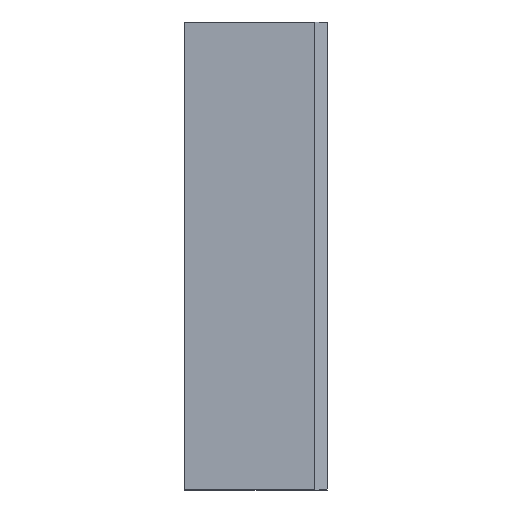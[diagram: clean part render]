
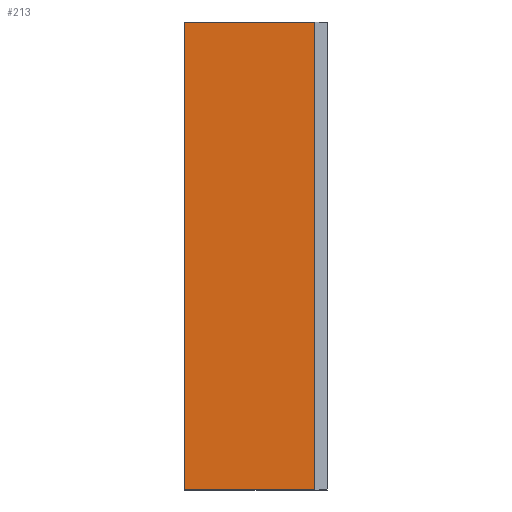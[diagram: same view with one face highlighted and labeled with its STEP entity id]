
A CAD part, top view. The second image highlights one B-rep face of the part: STEP entity #213.
In plain terms, the highlighted planar face has unit normal (0, 0, 1).
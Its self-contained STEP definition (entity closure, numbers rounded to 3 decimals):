
#44 = PLANE('',#45);
#45 = AXIS2_PLACEMENT_3D('',#46,#47,#48);
#46 = CARTESIAN_POINT('',(-33.,-32.,-277.));
#47 = DIRECTION('',(-1.,-0.,-0.));
#48 = DIRECTION('',(0.,0.,-1.));
#72 = PLANE('',#73);
#73 = AXIS2_PLACEMENT_3D('',#74,#75,#76);
#74 = CARTESIAN_POINT('',(-23.432,32.,-277.521));
#75 = DIRECTION('',(-0.,-1.,-0.));
#76 = DIRECTION('',(0.,0.,-1.));
#100 = PLANE('',#101);
#101 = AXIS2_PLACEMENT_3D('',#102,#103,#104);
#102 = CARTESIAN_POINT('',(-13.5,-32.,-278.));
#103 = DIRECTION('',(0.507,0.,0.862));
#104 = DIRECTION('',(-0.862,0.,0.507));
#126 = PLANE('',#127);
#127 = AXIS2_PLACEMENT_3D('',#128,#129,#130);
#128 = CARTESIAN_POINT('',(-23.432,-32.,-277.521));
#129 = DIRECTION('',(-0.,-1.,-0.));
#130 = DIRECTION('',(0.,0.,-1.));
#143 = VERTEX_POINT('',#144);
#144 = CARTESIAN_POINT('',(-15.2,32.,-277.));
#165 = EDGE_CURVE('',#166,#143,#168,.T.);
#166 = VERTEX_POINT('',#167);
#167 = CARTESIAN_POINT('',(-15.2,-32.,-277.));
#168 = SURFACE_CURVE('',#169,(#173,#180),.PCURVE_S1.);
#169 = LINE('',#170,#171);
#170 = CARTESIAN_POINT('',(-15.2,-32.,-277.));
#171 = VECTOR('',#172,1.);
#172 = DIRECTION('',(-0.,1.,-0.));
#173 = PCURVE('',#100,#174);
#174 = DEFINITIONAL_REPRESENTATION('',(#175),#179);
#175 = LINE('',#176,#177);
#176 = CARTESIAN_POINT('',(1.972,0.));
#177 = VECTOR('',#178,1.);
#178 = DIRECTION('',(0.,-1.));
#179 = ( GEOMETRIC_REPRESENTATION_CONTEXT(2) 
PARAMETRIC_REPRESENTATION_CONTEXT() REPRESENTATION_CONTEXT('2D SPACE',''
  ) );
#180 = PCURVE('',#181,#186);
#181 = PLANE('',#182);
#182 = AXIS2_PLACEMENT_3D('',#183,#184,#185);
#183 = CARTESIAN_POINT('',(-15.2,-32.,-277.));
#184 = DIRECTION('',(0.,0.,1.));
#185 = DIRECTION('',(-1.,0.,0.));
#186 = DEFINITIONAL_REPRESENTATION('',(#187),#191);
#187 = LINE('',#188,#189);
#188 = CARTESIAN_POINT('',(0.,0.));
#189 = VECTOR('',#190,1.);
#190 = DIRECTION('',(0.,-1.));
#191 = ( GEOMETRIC_REPRESENTATION_CONTEXT(2) 
PARAMETRIC_REPRESENTATION_CONTEXT() REPRESENTATION_CONTEXT('2D SPACE',''
  ) );
#213 = ADVANCED_FACE('',(#214),#181,.T.);
#214 = FACE_BOUND('',#215,.T.);
#215 = EDGE_LOOP('',(#216,#217,#240,#263));
#216 = ORIENTED_EDGE('',*,*,#165,.T.);
#217 = ORIENTED_EDGE('',*,*,#218,.T.);
#218 = EDGE_CURVE('',#143,#219,#221,.T.);
#219 = VERTEX_POINT('',#220);
#220 = CARTESIAN_POINT('',(-33.,32.,-277.));
#221 = SURFACE_CURVE('',#222,(#226,#233),.PCURVE_S1.);
#222 = LINE('',#223,#224);
#223 = CARTESIAN_POINT('',(-15.2,32.,-277.));
#224 = VECTOR('',#225,1.);
#225 = DIRECTION('',(-1.,0.,0.));
#226 = PCURVE('',#181,#227);
#227 = DEFINITIONAL_REPRESENTATION('',(#228),#232);
#228 = LINE('',#229,#230);
#229 = CARTESIAN_POINT('',(0.,-64.));
#230 = VECTOR('',#231,1.);
#231 = DIRECTION('',(1.,0.));
#232 = ( GEOMETRIC_REPRESENTATION_CONTEXT(2) 
PARAMETRIC_REPRESENTATION_CONTEXT() REPRESENTATION_CONTEXT('2D SPACE',''
  ) );
#233 = PCURVE('',#72,#234);
#234 = DEFINITIONAL_REPRESENTATION('',(#235),#239);
#235 = LINE('',#236,#237);
#236 = CARTESIAN_POINT('',(-0.521,8.232));
#237 = VECTOR('',#238,1.);
#238 = DIRECTION('',(0.,-1.));
#239 = ( GEOMETRIC_REPRESENTATION_CONTEXT(2) 
PARAMETRIC_REPRESENTATION_CONTEXT() REPRESENTATION_CONTEXT('2D SPACE',''
  ) );
#240 = ORIENTED_EDGE('',*,*,#241,.F.);
#241 = EDGE_CURVE('',#242,#219,#244,.T.);
#242 = VERTEX_POINT('',#243);
#243 = CARTESIAN_POINT('',(-33.,-32.,-277.));
#244 = SURFACE_CURVE('',#245,(#249,#256),.PCURVE_S1.);
#245 = LINE('',#246,#247);
#246 = CARTESIAN_POINT('',(-33.,-32.,-277.));
#247 = VECTOR('',#248,1.);
#248 = DIRECTION('',(-0.,1.,-0.));
#249 = PCURVE('',#181,#250);
#250 = DEFINITIONAL_REPRESENTATION('',(#251),#255);
#251 = LINE('',#252,#253);
#252 = CARTESIAN_POINT('',(17.8,0.));
#253 = VECTOR('',#254,1.);
#254 = DIRECTION('',(0.,-1.));
#255 = ( GEOMETRIC_REPRESENTATION_CONTEXT(2) 
PARAMETRIC_REPRESENTATION_CONTEXT() REPRESENTATION_CONTEXT('2D SPACE',''
  ) );
#256 = PCURVE('',#44,#257);
#257 = DEFINITIONAL_REPRESENTATION('',(#258),#262);
#258 = LINE('',#259,#260);
#259 = CARTESIAN_POINT('',(0.,0.));
#260 = VECTOR('',#261,1.);
#261 = DIRECTION('',(0.,-1.));
#262 = ( GEOMETRIC_REPRESENTATION_CONTEXT(2) 
PARAMETRIC_REPRESENTATION_CONTEXT() REPRESENTATION_CONTEXT('2D SPACE',''
  ) );
#263 = ORIENTED_EDGE('',*,*,#264,.F.);
#264 = EDGE_CURVE('',#166,#242,#265,.T.);
#265 = SURFACE_CURVE('',#266,(#270,#277),.PCURVE_S1.);
#266 = LINE('',#267,#268);
#267 = CARTESIAN_POINT('',(-15.2,-32.,-277.));
#268 = VECTOR('',#269,1.);
#269 = DIRECTION('',(-1.,0.,0.));
#270 = PCURVE('',#181,#271);
#271 = DEFINITIONAL_REPRESENTATION('',(#272),#276);
#272 = LINE('',#273,#274);
#273 = CARTESIAN_POINT('',(0.,0.));
#274 = VECTOR('',#275,1.);
#275 = DIRECTION('',(1.,0.));
#276 = ( GEOMETRIC_REPRESENTATION_CONTEXT(2) 
PARAMETRIC_REPRESENTATION_CONTEXT() REPRESENTATION_CONTEXT('2D SPACE',''
  ) );
#277 = PCURVE('',#126,#278);
#278 = DEFINITIONAL_REPRESENTATION('',(#279),#283);
#279 = LINE('',#280,#281);
#280 = CARTESIAN_POINT('',(-0.521,8.232));
#281 = VECTOR('',#282,1.);
#282 = DIRECTION('',(0.,-1.));
#283 = ( GEOMETRIC_REPRESENTATION_CONTEXT(2) 
PARAMETRIC_REPRESENTATION_CONTEXT() REPRESENTATION_CONTEXT('2D SPACE',''
  ) );
